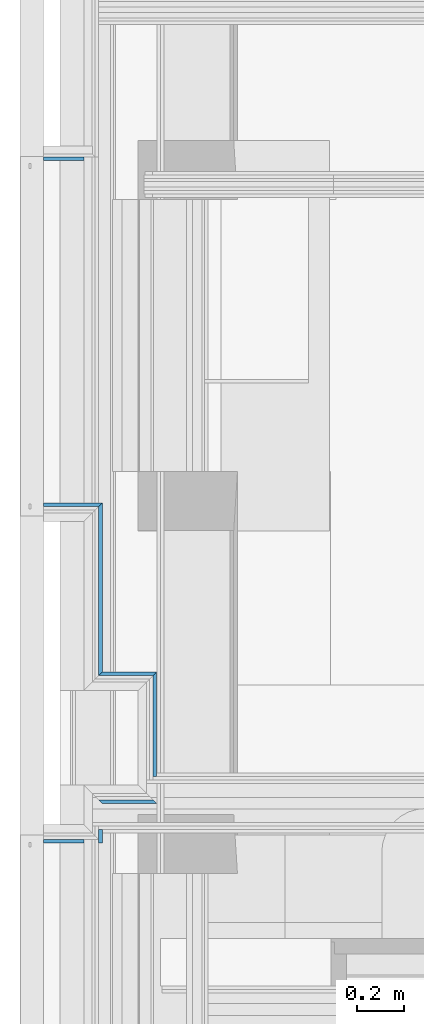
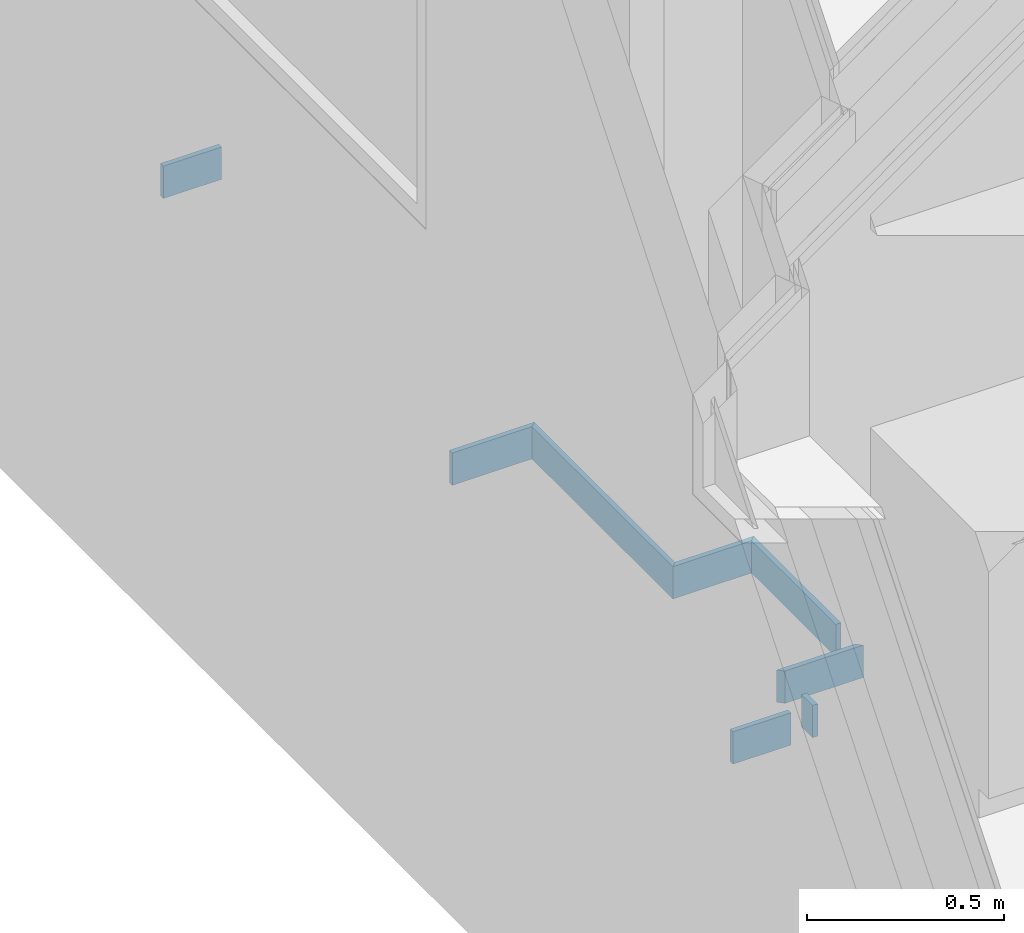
# One storey, part 57 of 169: 8 building element parts, 8 elements without a shape of their own.
"""IFC2X3 building model written with IfcOpenShell, lengths in metres."""

from ifc_helpers import new_model, entity, si_unit, converted_unit, derived_unit, money_unit, direction, frame, frame_2d, origin_with_axes, place, context, subcontext, project, spatial, polyline, rectangle, outline, extrude, material, type_object, element, aggregate, save


model = new_model("IFC2X3")

# Units and contexts
model_context = context("Model", 3, precision=1e-05, world=origin_with_axes(), true_north=direction((0.0, 1.0)))
body_context = subcontext(model_context, "Body", "Model", "MODEL_VIEW", scale=1.0)
ifc_project = project(units=[si_unit("LENGTHUNIT", "METRE"), si_unit("AREAUNIT", "SQUARE_METRE"), si_unit("VOLUMEUNIT", "CUBIC_METRE"), si_unit("ABSORBEDDOSEUNIT", "GRAY"), si_unit("AMOUNTOFSUBSTANCEUNIT", "MOLE"), si_unit("DOSEEQUIVALENTUNIT", "SIEVERT"), si_unit("ELECTRICCAPACITANCEUNIT", "FARAD"), si_unit("ELECTRICCHARGEUNIT", "COULOMB"), si_unit("ELECTRICCONDUCTANCEUNIT", "SIEMENS"), si_unit("ELECTRICCURRENTUNIT", "AMPERE"), si_unit("ELECTRICRESISTANCEUNIT", "OHM"), si_unit("ELECTRICVOLTAGEUNIT", "VOLT"), si_unit("ENERGYUNIT", "JOULE"), si_unit("FORCEUNIT", "NEWTON"), si_unit("FREQUENCYUNIT", "HERTZ"), si_unit("ILLUMINANCEUNIT", "LUX"), si_unit("INDUCTANCEUNIT", "HENRY"), si_unit("LUMINOUSFLUXUNIT", "LUMEN"), si_unit("LUMINOUSINTENSITYUNIT", "CANDELA"), si_unit("MAGNETICFLUXDENSITYUNIT", "TESLA"), si_unit("MAGNETICFLUXUNIT", "WEBER"), si_unit("MASSUNIT", "GRAM"), converted_unit("PLANEANGLEUNIT", "degree", entity("IfcReal", 0.0174532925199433), si_unit("PLANEANGLEUNIT", "RADIAN"), dimensions=[0, 0, 0, 0, 0, 0, 0]), si_unit("POWERUNIT", "WATT"), si_unit("PRESSUREUNIT", "PASCAL"), si_unit("RADIOACTIVITYUNIT", "BECQUEREL"), si_unit("SOLIDANGLEUNIT", "STERADIAN"), si_unit("THERMODYNAMICTEMPERATUREUNIT", "KELVIN"), si_unit("TIMEUNIT", "SECOND"), derived_unit("ACCELERATIONUNIT", [(si_unit("LENGTHUNIT", "METRE"), 1), (si_unit("TIMEUNIT", "SECOND"), -2)]), derived_unit("ANGULARVELOCITYUNIT", [(converted_unit("PLANEANGLEUNIT", "degree", entity("IfcReal", 0.0174532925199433), si_unit("PLANEANGLEUNIT", "RADIAN"), dimensions=[0, 0, 0, 0, 0, 0, 0]), 1), (si_unit("TIMEUNIT", "SECOND"), -1)]), derived_unit("CURVATUREUNIT", [(converted_unit("PLANEANGLEUNIT", "degree", entity("IfcReal", 0.0174532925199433), si_unit("PLANEANGLEUNIT", "RADIAN"), dimensions=[0, 0, 0, 0, 0, 0, 0]), 1), (si_unit("LENGTHUNIT", "METRE"), -1)]), derived_unit("DYNAMICVISCOSITYUNIT", [(si_unit("PRESSUREUNIT", "PASCAL"), 1), (si_unit("TIMEUNIT", "SECOND"), 1)]), derived_unit("HEATFLUXDENSITYUNIT", [(si_unit("POWERUNIT", "WATT"), 1), (si_unit("LENGTHUNIT", "METRE"), -2)]), derived_unit("HEATINGVALUEUNIT", [(si_unit("ENERGYUNIT", "JOULE"), 1), (si_unit("MASSUNIT", "GRAM"), -1)]), derived_unit("INTEGERCOUNTRATEUNIT", [(si_unit("TIMEUNIT", "SECOND"), -1)]), derived_unit("IONCONCENTRATIONUNIT", [(si_unit("MASSUNIT", "GRAM"), 1), (si_unit("VOLUMEUNIT", "CUBIC_METRE"), -1)]), derived_unit("ISOTHERMALMOISTURECAPACITYUNIT", [(si_unit("VOLUMEUNIT", "CUBIC_METRE"), 1), (si_unit("MASSUNIT", "GRAM"), -1)]), derived_unit("KINEMATICVISCOSITYUNIT", [(si_unit("AREAUNIT", "SQUARE_METRE"), 1), (si_unit("TIMEUNIT", "SECOND"), -1)]), derived_unit("LINEARFORCEUNIT", [(si_unit("FORCEUNIT", "NEWTON"), 1), (si_unit("LENGTHUNIT", "METRE"), -1)]), derived_unit("LINEARMOMENTUNIT", [(si_unit("FORCEUNIT", "NEWTON"), 1), (si_unit("LENGTHUNIT", "METRE"), -1)]), derived_unit("LINEARSTIFFNESSUNIT", [(si_unit("FORCEUNIT", "NEWTON"), 1), (si_unit("LENGTHUNIT", "METRE"), -1)]), derived_unit("LINEARVELOCITYUNIT", [(si_unit("LENGTHUNIT", "METRE"), 1), (si_unit("TIMEUNIT", "SECOND"), -1)]), derived_unit("LUMINOUSINTENSITYDISTRIBUTIONUNIT", [(si_unit("LUMINOUSINTENSITYUNIT", "CANDELA"), 1), (si_unit("LUMINOUSFLUXUNIT", "LUMEN"), -1)]), derived_unit("MASSDENSITYUNIT", [(si_unit("MASSUNIT", "GRAM"), 1), (si_unit("VOLUMEUNIT", "CUBIC_METRE"), -1)]), derived_unit("MASSFLOWRATEUNIT", [(si_unit("MASSUNIT", "GRAM"), 1), (si_unit("TIMEUNIT", "SECOND"), -1)]), derived_unit("MASSPERLENGTHUNIT", [(si_unit("MASSUNIT", "GRAM"), 1), (si_unit("LENGTHUNIT", "METRE"), -1)]), derived_unit("MODULUSOFELASTICITYUNIT", [(si_unit("FORCEUNIT", "NEWTON"), 1), (si_unit("AREAUNIT", "SQUARE_METRE"), -1)]), derived_unit("MODULUSOFLINEARSUBGRADEREACTIONUNIT", [(si_unit("FORCEUNIT", "NEWTON"), 1), (si_unit("LENGTHUNIT", "METRE"), -2)]), derived_unit("MODULUSOFROTATIONALSUBGRADEREACTIONUNIT", [(si_unit("FORCEUNIT", "NEWTON"), 1), (si_unit("LENGTHUNIT", "METRE"), 1)]), derived_unit("MODULUSOFSUBGRADEREACTIONUNIT", [(si_unit("FORCEUNIT", "NEWTON"), 1), (si_unit("VOLUMEUNIT", "CUBIC_METRE"), -1)]), derived_unit("MOISTUREDIFFUSIVITYUNIT", [(si_unit("VOLUMEUNIT", "CUBIC_METRE"), 1), (si_unit("TIMEUNIT", "SECOND"), -1)]), derived_unit("MOLECULARWEIGHTUNIT", [(si_unit("MASSUNIT", "GRAM"), 1), (si_unit("AMOUNTOFSUBSTANCEUNIT", "MOLE"), -1)]), derived_unit("PLANARFORCEUNIT", [(si_unit("FORCEUNIT", "NEWTON"), 1), (si_unit("LENGTHUNIT", "METRE"), -2)]), derived_unit("ROTATIONALFREQUENCYUNIT", [(si_unit("TIMEUNIT", "SECOND"), -1)]), derived_unit("ROTATIONALMASSUNIT", [(si_unit("MASSUNIT", "GRAM"), 1), (si_unit("LENGTHUNIT", "METRE"), 2)]), derived_unit("ROTATIONALSTIFFNESSUNIT", [(si_unit("FORCEUNIT", "NEWTON"), 1), (si_unit("LENGTHUNIT", "METRE"), 1), (converted_unit("PLANEANGLEUNIT", "degree", entity("IfcReal", 0.0174532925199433), si_unit("PLANEANGLEUNIT", "RADIAN"), dimensions=[0, 0, 0, 0, 0, 0, 0]), -1)]), derived_unit("SECTIONAREAINTEGRALUNIT", [(si_unit("LENGTHUNIT", "METRE"), 5)]), derived_unit("SECTIONMODULUSUNIT", [(si_unit("LENGTHUNIT", "METRE"), 3)]), derived_unit("SHEARMODULUSUNIT", [(si_unit("FORCEUNIT", "NEWTON"), 1), (si_unit("AREAUNIT", "SQUARE_METRE"), -1)]), derived_unit("SOUNDPOWERUNIT", [(si_unit("ENERGYUNIT", "JOULE"), 1), (si_unit("TIMEUNIT", "SECOND"), -1)]), derived_unit("SPECIFICHEATCAPACITYUNIT", [(si_unit("FORCEUNIT", "NEWTON"), 1), (si_unit("MASSUNIT", "GRAM"), -1), (si_unit("THERMODYNAMICTEMPERATUREUNIT", "KELVIN"), -1)]), derived_unit("TEMPERATUREGRADIENTUNIT", [(si_unit("THERMODYNAMICTEMPERATUREUNIT", "KELVIN"), 1), (si_unit("LENGTHUNIT", "METRE"), -1)]), derived_unit("THERMALADMITTANCEUNIT", [(si_unit("POWERUNIT", "WATT"), 1), (si_unit("AREAUNIT", "SQUARE_METRE"), -1), (si_unit("THERMODYNAMICTEMPERATUREUNIT", "KELVIN"), -1)]), derived_unit("THERMALCONDUCTANCEUNIT", [(si_unit("POWERUNIT", "WATT"), 1), (si_unit("LENGTHUNIT", "METRE"), -1), (si_unit("THERMODYNAMICTEMPERATUREUNIT", "KELVIN"), -1)]), derived_unit("THERMALEXPANSIONCOEFFICIENTUNIT", [(si_unit("THERMODYNAMICTEMPERATUREUNIT", "KELVIN"), -1)]), derived_unit("THERMALRESISTANCEUNIT", [(si_unit("AREAUNIT", "SQUARE_METRE"), 1), (si_unit("POWERUNIT", "WATT"), -1)]), derived_unit("THERMALTRANSMITTANCEUNIT", [(si_unit("POWERUNIT", "WATT"), 1), (si_unit("AREAUNIT", "SQUARE_METRE"), -1), (si_unit("THERMODYNAMICTEMPERATUREUNIT", "KELVIN"), -1)]), derived_unit("TORQUEUNIT", [(si_unit("FORCEUNIT", "NEWTON"), 1), (si_unit("LENGTHUNIT", "METRE"), 1)]), derived_unit("VAPORPERMEABILITYUNIT", [(si_unit("MASSUNIT", "GRAM"), 1), (si_unit("TIMEUNIT", "SECOND"), -1)]), derived_unit("VOLUMETRICFLOWRATEUNIT", [(si_unit("VOLUMEUNIT", "CUBIC_METRE"), 1), (si_unit("TIMEUNIT", "SECOND"), -1)]), derived_unit("WARPINGCONSTANTUNIT", [(si_unit("LENGTHUNIT", "METRE"), 6)]), derived_unit("WARPINGMOMENTUNIT", [(si_unit("FORCEUNIT", "NEWTON"), 1), (si_unit("LENGTHUNIT", "METRE"), 2)]), money_unit("GBP")], contexts=[model_context])

# Site, building, storey
site_placement = place(None, origin_with_axes())
site = spatial("IfcSite", under=ifc_project, at=site_placement, Name="Site", CompositionType="ELEMENT")
building_placement = place(site_placement, origin_with_axes())
building = spatial("IfcBuilding", under=site, at=building_placement, Name="Building01", CompositionType="ELEMENT")
storey_placement = place(building_placement, frame((0.0, 0.0, 5.15), z_axis=(0.0, 0.0, 1.0), x_axis=(1.0, 0.0, 0.0)))
storey = spatial("IfcBuildingStorey", under=building, at=storey_placement, Name="1F", CompositionType="ELEMENT", Elevation=5.15)

# Wall, building element part
wall_type_1 = type_object("IfcWallType", Name="SHE_A-Walls_Type06f_ExternalWallInsulation_48+15mm", PredefinedType="NOTDEFINED")
wall_1_placement = place(storey_placement, frame((0.1, 9.53218, 0.0), z_axis=(0.0, 0.0, 1.0), x_axis=(1.0, 0.0, 0.0)))
wall_1 = element("IfcWall", 1, at=wall_1_placement, inside=storey, type_object=wall_type_1, Name="6F", ObjectType="SHE_A-Walls_Type06f_ExternalWallInsulation_48+15mm")
ifc_material = material(Name="A_BSUK_Walls_Timber")
building_element_part_1_placement = place(wall_1_placement, origin_with_axes())
building_element_part_1 = element("IfcBuildingElementPart", 2, at=building_element_part_1_placement, material=ifc_material, Name="4", context=body_context, shape_type="SweptSolid", body=[
    extrude(outline(polyline([(0.248, 0.06), (0.0, 0.06), (0.0, 0.045), (0.233, 0.045), (0.248, 0.06)])), frame((0.0, 0.0, 0.015), z_axis=(0.0, 0.0, 1.0), x_axis=(1.0, 0.0, 0.0)), (0.0, 0.0, 1.0), 0.1),
])
aggregate(wall_1, [building_element_part_1])

wall_2_placement = place(storey_placement, frame((0.288, 9.53218, 0.0), z_axis=(0.0, 0.0, 1.0), x_axis=(0.0, -1.0, 0.0)))
wall_2 = element("IfcWall", 3, at=wall_2_placement, inside=storey, type_object=wall_type_1, Name="6F", ObjectType="SHE_A-Walls_Type06f_ExternalWallInsulation_48+15mm")
building_element_part_2_placement = place(wall_2_placement, origin_with_axes())
building_element_part_2 = element("IfcBuildingElementPart", 4, at=building_element_part_2_placement, material=ifc_material, Name="4", context=body_context, shape_type="SweptSolid", body=[
    extrude(outline(polyline([(0.65418, 0.06), (-0.06, 0.06), (-0.045, 0.045), (0.66918, 0.045), (0.65418, 0.06)])), frame((0.0, 0.0, 0.015), z_axis=(0.0, 0.0, 1.0), x_axis=(1.0, 0.0, 0.0)), (0.0, 0.0, 1.0), 0.1),
])
aggregate(wall_2, [building_element_part_2])

wall_3_placement = place(storey_placement, frame((0.288, 8.818, 0.0), z_axis=(0.0, 0.0, 1.0), x_axis=(1.0, 0.0, 0.0)))
wall_3 = element("IfcWall", 5, at=wall_3_placement, inside=storey, type_object=wall_type_1, Name="6F", ObjectType="SHE_A-Walls_Type06f_ExternalWallInsulation_48+15mm")
building_element_part_3_placement = place(wall_3_placement, origin_with_axes())
building_element_part_3 = element("IfcBuildingElementPart", 6, at=building_element_part_3_placement, material=ifc_material, Name="4", context=body_context, shape_type="SweptSolid", body=[
    extrude(outline(polyline([(0.29, 0.06), (0.06, 0.06), (0.045, 0.045), (0.275, 0.045), (0.29, 0.06)])), frame((0.0, 0.0, 0.015), z_axis=(0.0, 0.0, 1.0), x_axis=(1.0, 0.0, 0.0)), (0.0, 0.0, 1.0), 0.1),
])
aggregate(wall_3, [building_element_part_3])

wall_4_placement = place(storey_placement, frame((0.518, 8.818, 0.0), z_axis=(0.0, 0.0, 1.0), x_axis=(0.0, -1.0, 0.0)))
wall_4 = element("IfcWall", 7, at=wall_4_placement, inside=storey, type_object=wall_type_1, Name="6F", ObjectType="SHE_A-Walls_Type06f_ExternalWallInsulation_48+15mm")
building_element_part_4_placement = place(wall_4_placement, origin_with_axes())
building_element_part_4 = element("IfcBuildingElementPart", 8, at=building_element_part_4_placement, material=ifc_material, Name="4", context=body_context, shape_type="SweptSolid", body=[
    extrude(outline(polyline([(0.38233, 0.06), (-0.06, 0.06), (-0.045, 0.045), (0.38233, 0.045), (0.38233, 0.06)])), frame((0.0, 0.0, 0.015), z_axis=(0.0, 0.0, 1.0), x_axis=(1.0, 0.0, 0.0)), (0.0, 0.0, 1.0), 0.1),
])
aggregate(wall_4, [building_element_part_4])

wall_5_placement = place(storey_placement, frame((0.518, 8.382, 0.0), z_axis=(0.0, 0.0, 1.0), x_axis=(-1.0, 0.0, 0.0)))
wall_5 = element("IfcWall", 9, at=wall_5_placement, inside=storey, type_object=wall_type_1, Name="6F", ObjectType="SHE_A-Walls_Type06f_ExternalWallInsulation_48+15mm")
building_element_part_5_placement = place(wall_5_placement, origin_with_axes())
building_element_part_5 = element("IfcBuildingElementPart", 10, at=building_element_part_5_placement, material=ifc_material, Name="4", context=body_context, shape_type="SweptSolid", body=[
    extrude(outline(polyline([(0.17, 0.06), (-0.06, 0.06), (-0.045, 0.045), (0.185, 0.045), (0.17, 0.06)])), frame((0.0, 0.0, 0.015), z_axis=(0.0, 0.0, 1.0), x_axis=(1.0, 0.0, 0.0)), (0.0, 0.0, 1.0), 0.1),
])
aggregate(wall_5, [building_element_part_5])

wall_6_placement = place(storey_placement, frame((0.288, 8.382, 0.0), z_axis=(0.0, 0.0, 1.0), x_axis=(0.0, -1.0, 0.0)))
wall_6 = element("IfcWall", 11, at=wall_6_placement, inside=storey, type_object=wall_type_1, Name="6F", ObjectType="SHE_A-Walls_Type06f_ExternalWallInsulation_48+15mm")
building_element_part_6_placement = place(wall_6_placement, origin_with_axes())
building_element_part_6 = element("IfcBuildingElementPart", 12, at=building_element_part_6_placement, material=ifc_material, Name="4", context=body_context, shape_type="SweptSolid", body=[
    extrude(rectangle(XDim=0.05567, YDim=0.015, at=frame_2d((0.199165, 0.0525), x_axis=(-1.0, 0.0))), frame((0.0, 0.0, 0.015), z_axis=(0.0, 0.0, 1.0), x_axis=(1.0, 0.0, 0.0)), (0.0, 0.0, 1.0), 0.1),
])
aggregate(wall_6, [building_element_part_6])

wall_7_placement = place(storey_placement, frame((0.288, 8.215, 0.0), z_axis=(0.0, 0.0, 1.0), x_axis=(-1.0, 0.0, 0.0)))
wall_7 = element("IfcWall", 13, at=wall_7_placement, inside=storey, type_object=wall_type_1, Name="6F", ObjectType="SHE_A-Walls_Type06f_ExternalWallInsulation_48+15mm")
building_element_part_7_placement = place(wall_7_placement, origin_with_axes())
building_element_part_7 = element("IfcBuildingElementPart", 14, at=building_element_part_7_placement, material=ifc_material, Name="4", context=body_context, shape_type="SweptSolid", body=[
    extrude(rectangle(XDim=0.169744, YDim=0.015, at=frame_2d((0.103128, 0.0525), x_axis=(1.0, 0.0))), frame((0.0, 0.0, 0.015), z_axis=(0.0, 0.0, 1.0), x_axis=(1.0, 0.0, 0.0)), (0.0, 0.0, 1.0), 0.1),
])
aggregate(wall_7, [building_element_part_7])

wall_type_2 = type_object("IfcWallType", Name="SHE_A-Walls_Type06d_ExternalWallInsulation_48mm", PredefinedType="NOTDEFINED")
wall_8_placement = place(storey_placement, frame((0.306, 11.103, 0.0), z_axis=(0.0, 0.0, 1.0), x_axis=(-1.0, 0.0, 0.0)))
wall_8 = element("IfcWall", 15, at=wall_8_placement, inside=storey, type_object=wall_type_2, Name="6D", ObjectType="SHE_A-Walls_Type06d_ExternalWallInsulation_48mm")
building_element_part_8_placement = place(wall_8_placement, origin_with_axes())
building_element_part_8 = element("IfcBuildingElementPart", 16, at=building_element_part_8_placement, material=ifc_material, Name="3", context=body_context, shape_type="SweptSolid", body=[
    extrude(rectangle(XDim=0.17, YDim=0.015, at=frame_2d((0.121, 0.0555), x_axis=(1.0, 0.0))), frame((0.0, 0.0, 0.015), z_axis=(0.0, 0.0, 1.0), x_axis=(1.0, 0.0, 0.0)), (0.0, 0.0, 1.0), 0.1),
])
aggregate(wall_8, [building_element_part_8])

save(model, "model.ifc")
